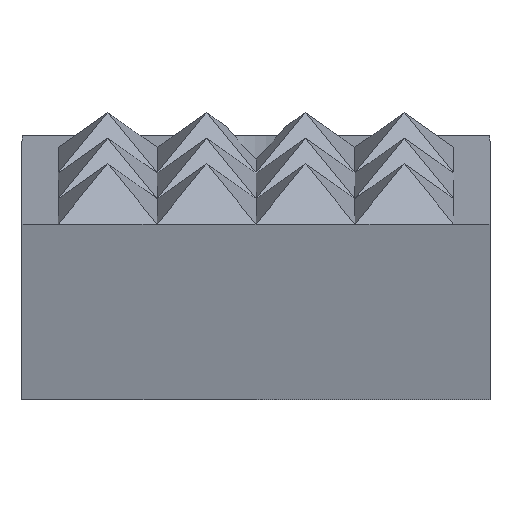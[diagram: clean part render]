
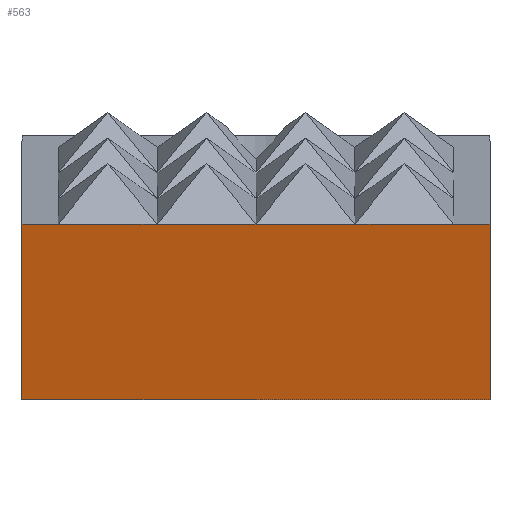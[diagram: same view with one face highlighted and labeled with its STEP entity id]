
A CAD part, left-side view. The second image highlights one B-rep face of the part: STEP entity #563.
In plain terms, the highlighted planar face has unit normal (-0.966, 0, -0.259).
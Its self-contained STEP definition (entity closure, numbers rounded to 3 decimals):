
#496=AXIS2_PLACEMENT_3D('Plane Axis2P3D',#493,#494,#495) ;
#339=CARTESIAN_POINT('Vertex',(-9.4,-6.,5.321)) ;
#342=CARTESIAN_POINT('Line Origine',(-9.4,-6.55,5.321)) ;
#346=CARTESIAN_POINT('Vertex',(-9.4,-7.1,5.321)) ;
#493=CARTESIAN_POINT('Axis2P3D Location',(-9.4,7.1,5.321)) ;
#498=CARTESIAN_POINT('Line Origine',(-7.974,0.,0.)) ;
#502=CARTESIAN_POINT('Vertex',(-7.974,7.1,0.)) ;
#504=CARTESIAN_POINT('Vertex',(-7.974,-7.1,0.)) ;
#507=CARTESIAN_POINT('Line Origine',(-8.687,-7.1,2.66)) ;
#512=CARTESIAN_POINT('Line Origine',(-9.4,-4.5,5.321)) ;
#516=CARTESIAN_POINT('Vertex',(-9.4,-3.,5.321)) ;
#519=CARTESIAN_POINT('Line Origine',(-9.4,-1.5,5.321)) ;
#523=CARTESIAN_POINT('Vertex',(-9.4,0.,5.321)) ;
#526=CARTESIAN_POINT('Line Origine',(-9.4,1.5,5.321)) ;
#530=CARTESIAN_POINT('Vertex',(-9.4,3.,5.321)) ;
#533=CARTESIAN_POINT('Line Origine',(-9.4,4.5,5.321)) ;
#537=CARTESIAN_POINT('Vertex',(-9.4,6.,5.321)) ;
#540=CARTESIAN_POINT('Line Origine',(-9.4,6.55,5.321)) ;
#544=CARTESIAN_POINT('Vertex',(-9.4,7.1,5.321)) ;
#547=CARTESIAN_POINT('Line Origine',(-8.687,7.1,2.66)) ;
#343=DIRECTION('Vector Direction',(0.,-1.,0.)) ;
#494=DIRECTION('Axis2P3D Direction',(-0.966,-0.,-0.259)) ;
#495=DIRECTION('Axis2P3D XDirection',(0.259,0.,-0.966)) ;
#499=DIRECTION('Vector Direction',(0.,-1.,0.)) ;
#508=DIRECTION('Vector Direction',(0.259,0.,-0.966)) ;
#513=DIRECTION('Vector Direction',(0.,1.,0.)) ;
#520=DIRECTION('Vector Direction',(0.,1.,0.)) ;
#527=DIRECTION('Vector Direction',(0.,1.,0.)) ;
#534=DIRECTION('Vector Direction',(0.,1.,0.)) ;
#541=DIRECTION('Vector Direction',(0.,-1.,0.)) ;
#548=DIRECTION('Vector Direction',(0.259,0.,-0.966)) ;
#344=VECTOR('Line Direction',#343,1.) ;
#500=VECTOR('Line Direction',#499,1.) ;
#509=VECTOR('Line Direction',#508,1.) ;
#514=VECTOR('Line Direction',#513,1.) ;
#521=VECTOR('Line Direction',#520,1.) ;
#528=VECTOR('Line Direction',#527,1.) ;
#535=VECTOR('Line Direction',#534,1.) ;
#542=VECTOR('Line Direction',#541,1.) ;
#549=VECTOR('Line Direction',#548,1.) ;
#553=ORIENTED_EDGE('',*,*,#506,.T.) ;
#554=ORIENTED_EDGE('',*,*,#511,.F.) ;
#555=ORIENTED_EDGE('',*,*,#348,.F.) ;
#556=ORIENTED_EDGE('',*,*,#518,.F.) ;
#557=ORIENTED_EDGE('',*,*,#525,.F.) ;
#558=ORIENTED_EDGE('',*,*,#532,.F.) ;
#559=ORIENTED_EDGE('',*,*,#539,.F.) ;
#560=ORIENTED_EDGE('',*,*,#546,.F.) ;
#561=ORIENTED_EDGE('',*,*,#551,.T.) ;
#563=ADVANCED_FACE('PartBody',(#562),#497,.T.) ;
#348=EDGE_CURVE('',#340,#347,#345,.T.) ;
#506=EDGE_CURVE('',#503,#505,#501,.T.) ;
#511=EDGE_CURVE('',#347,#505,#510,.T.) ;
#518=EDGE_CURVE('',#517,#340,#515,.F.) ;
#525=EDGE_CURVE('',#524,#517,#522,.F.) ;
#532=EDGE_CURVE('',#531,#524,#529,.F.) ;
#539=EDGE_CURVE('',#538,#531,#536,.F.) ;
#546=EDGE_CURVE('',#545,#538,#543,.T.) ;
#551=EDGE_CURVE('',#545,#503,#550,.T.) ;
#552=EDGE_LOOP('',(#553,#554,#555,#556,#557,#558,#559,#560,#561)) ;
#562=FACE_OUTER_BOUND('',#552,.T.) ;
#345=LINE('Line',#342,#344) ;
#501=LINE('Line',#498,#500) ;
#510=LINE('Line',#507,#509) ;
#515=LINE('Line',#512,#514) ;
#522=LINE('Line',#519,#521) ;
#529=LINE('Line',#526,#528) ;
#536=LINE('Line',#533,#535) ;
#543=LINE('Line',#540,#542) ;
#550=LINE('Line',#547,#549) ;
#497=PLANE('Plane',#496) ;
#340=VERTEX_POINT('',#339) ;
#347=VERTEX_POINT('',#346) ;
#503=VERTEX_POINT('',#502) ;
#505=VERTEX_POINT('',#504) ;
#517=VERTEX_POINT('',#516) ;
#524=VERTEX_POINT('',#523) ;
#531=VERTEX_POINT('',#530) ;
#538=VERTEX_POINT('',#537) ;
#545=VERTEX_POINT('',#544) ;
